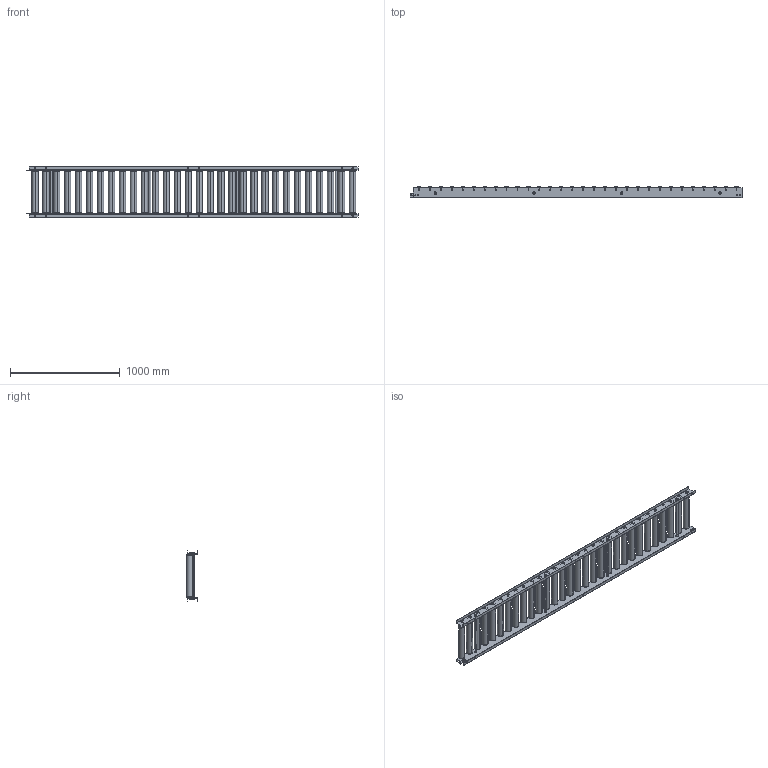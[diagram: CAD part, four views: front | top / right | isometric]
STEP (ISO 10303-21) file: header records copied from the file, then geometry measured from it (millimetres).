
FILE_DESCRIPTION (( 'STEP AP203' ), '1' );
FILE_NAME ('S-5714NB.step', '2024-02-26T06:41:52', ( '' ), ( '' ), 'SwSTEP 2.0', 'SolidWorks 2023', '' );
FILE_SCHEMA (( 'CONFIG_CONTROL_DESIGN' ));
Length unit declared in the file: millimetre
Products named in the file (1): S-5714NB
Bounding box: 3031.5 x 100.1 x 460 mm (x, y, z)
Volume: 31410352.8 mm3; surface area: 5477395.2 mm2
Topology: 84 solids, 84 shells, 1730 faces, 4282 edges, 2788 vertices
Faces by surface type: plane 952, cylinder 610, torus 120, cone 48
Entity records: 52781 total; most frequent: DIRECTION 9604, CARTESIAN_POINT 9473, ORIENTED_EDGE 8564, EDGE_CURVE 4282, AXIS2_PLACEMENT_3D 3719, VERTEX_POINT 2788, LINE 2166, VECTOR 2166
